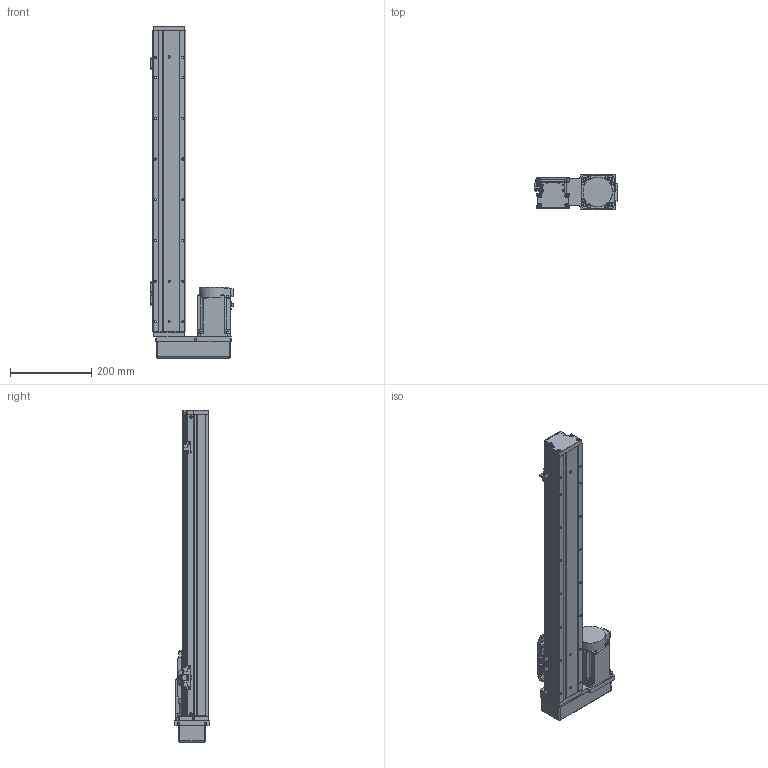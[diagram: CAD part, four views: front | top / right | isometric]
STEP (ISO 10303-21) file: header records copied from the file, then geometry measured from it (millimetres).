
FILE_DESCRIPTION (( 'STEP AP203' ), '1' );
FILE_NAME ('GTH8-550-BR-M75-C4.step', '2023-02-14T02:34:03', ( '微软用户' ), ( '微软中国' ), 'SwSTEP 2.0', 'SolidWorks 2020', '' );
FILE_SCHEMA (( 'CONFIG_CONTROL_DESIGN' ));
Length unit declared in the file: millimetre
Products named in the file (18): GTH80-022; BTH-M3X5X6; GTH80-001_550; GBT 70.1-M3℅6; CTHA86-015-3_CTHA86-015-4; GTH80-003; GBT 70.1-M4×16; CTHA86-035; GTH80-004; GTH80-028; hg-kn73j_-s100; GTH80-006; GTH50-024; GTH8-550-BR-M75-C4; GTH80-013; GTH50-023; GBT 70.3-M3℅6; GBT96.1-2002 3×0.8
Assembly tree (57 placements, depth 2):
  GTH8-550-BR-M75-C4
    GTH80-001_550
    GTH80-003
    GTH80-004
    GTH80-006
    GTH80-013
    GBT 70.3-M3℅6  x4
    GTH80-022
    GBT 70.1-M3℅6  x14
    GBT 70.1-M4×16  x8
    GTH80-028  x2
    GTH50-024  x3
    GTH50-023  x3
    GBT96.1-2002 3×0.8  x6
    BTH-M3X5X6  x8
    CTHA86-015-3_CTHA86-015-4
    CTHA86-035
    hg-kn73j_-s100
Bounding box: 204.7 x 87 x 816 mm (x, y, z)
Volume: 4749948.6 mm3; surface area: 489275 mm2
Topology: 59 solids, 59 shells, 2195 faces, 5094 edges, 3120 vertices
Faces by surface type: plane 1153, cylinder 627, cone 243, torus 158, sphere 12, bspline 2
Entity records: 39588 total; most frequent: CARTESIAN_POINT 6647, DIRECTION 6529, ORIENTED_EDGE 5998, EDGE_CURVE 2999, AXIS2_PLACEMENT_3D 2302, LINE 1925, VECTOR 1925, VERTEX_POINT 1895
